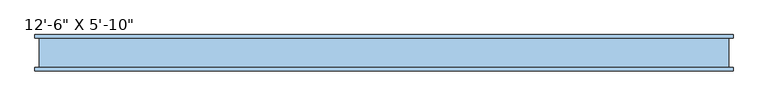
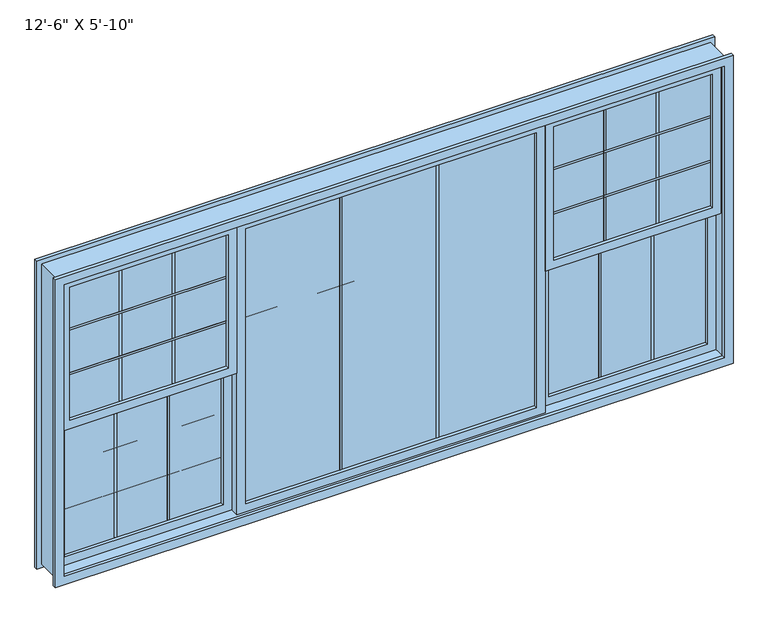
"""IFC4 building model written with IfcOpenShell, lengths in millimetres: window geometry."""

import ifcopenshell
import ifcopenshell.guid

model = None  # the IFC model being written
_history = None  # IfcOwnerHistory: only IFC2X3 demands one
_inside = {}  # id of a spatial element -> (the spatial element, [elements in it])
_under = {}  # id of a project, library or spatial element -> (it, [spatial elements below it])
_declared = {}  # id of a project -> (the project, [libraries it declares])
_typed = {}  # id of a type object -> (the type object, [elements of that type])
_made_of = {}  # id of a material, layer set ... -> (it, [elements and type objects made of it])


def new_model(schema):
    """Start an empty IFC model of exactly this schema.

    Asked for "IFC4X3", IfcOpenShell would pick the latest addendum, in which some entities
    have other attributes; the version numbers below select the first issue.
    IFC2X3 requires an IfcOwnerHistory on every rooted entity: one is made here for all.
    """
    global model, _history
    if schema == "IFC4X3":
        model = ifcopenshell.file(schema_version=(4, 3, 0, 0))
    else:
        model = ifcopenshell.file(schema=schema)
    _inside.clear()
    _under.clear()
    _declared.clear()
    _typed.clear()
    _made_of.clear()
    _history = None
    if model.schema == "IFC2X3":
        org = make("IfcOrganization", Name="unknown")
        user = make(
            "IfcPersonAndOrganization",
            ThePerson=make("IfcPerson", FamilyName="unknown"),
            TheOrganization=org,
        )
        app = make(
            "IfcApplication",
            ApplicationDeveloper=org,
            Version="unknown",
            ApplicationFullName="unknown",
            ApplicationIdentifier="unknown",
        )
        _history = make(
            "IfcOwnerHistory",
            OwningUser=user,
            OwningApplication=app,
            ChangeAction="ADDED",
            CreationDate=0,
        )
    return model


def make(cls, **values):
    """One entity of the class cls with the attributes given. An attribute that is None is left unset."""
    return model.create_entity(
        cls, **{name: value for name, value in values.items() if value is not None}
    )


def rooted(cls, **values):
    """An entity with a GlobalId (a new one), such as an element, a storey or a relation."""
    return make(cls, GlobalId=ifcopenshell.guid.new(), OwnerHistory=_history, **values)


def si_unit(unit_type, name, prefix=None):
    """IfcSIUnit, for example si_unit("LENGTHUNIT", "METRE", prefix="MILLI")."""
    return make("IfcSIUnit", UnitType=unit_type, Prefix=prefix, Name=name)


def assignment(units):
    """IfcUnitAssignment: the units of a project."""
    return None if units is None else make("IfcUnitAssignment", Units=units)


def point(xyz):
    """IfcCartesianPoint."""
    return None if xyz is None else make("IfcCartesianPoint", Coordinates=xyz)


def direction(xyz):
    """IfcDirection."""
    return None if xyz is None else make("IfcDirection", DirectionRatios=xyz)


def frame(location, z_axis=None, x_axis=None):
    """IfcAxis2Placement3D, a coordinate frame: its origin and axes. An axis left out is left unset."""
    return make(
        "IfcAxis2Placement3D",
        Location=point(location),
        Axis=direction(z_axis),
        RefDirection=direction(x_axis),
    )


def origin():
    """The frame at (0, 0, 0) with its axes left unset."""
    return frame((0.0, 0.0, 0.0))


def place(relative_to, where):
    """IfcLocalPlacement: puts the frame where relative to a parent placement (None: the world)."""
    return make(
        "IfcLocalPlacement", PlacementRelTo=relative_to, RelativePlacement=where
    )


def context(
    kind, dimensions, precision=None, world=None, true_north=None, identifier=None
):
    """IfcGeometricRepresentationContext, for example the 3D "Model" context."""
    return make(
        "IfcGeometricRepresentationContext",
        ContextIdentifier=identifier,
        ContextType=kind,
        CoordinateSpaceDimension=dimensions,
        Precision=precision,
        WorldCoordinateSystem=world,
        TrueNorth=true_north,
    )


def project(units=None, contexts=None):
    """IfcProject with its units and contexts."""
    return rooted(
        "IfcProject",
        Name="project",
        RepresentationContexts=contexts,
        UnitsInContext=assignment(units),
    )


def spatial(cls, under=None, at=None, **own):
    """A site, building, storey or space (cls), placed at a placement, below another one or the project."""
    s = rooted(cls, ObjectPlacement=at, **own)
    if under is not None:
        _under.setdefault(under.id(), (under, []))[1].append(s)
    return s


def polyline(points):
    """IfcPolyline through the points."""
    return make("IfcPolyline", Points=[point(p) for p in points])


def outline(outer, holes=None, kind="AREA"):
    """IfcArbitraryClosedProfileDef: a profile drawn as a closed curve; with holes, ...WithVoids."""
    if holes is None:
        return make("IfcArbitraryClosedProfileDef", ProfileType=kind, OuterCurve=outer)
    return make(
        "IfcArbitraryProfileDefWithVoids",
        ProfileType=kind,
        OuterCurve=outer,
        InnerCurves=holes,
    )


def extrude(swept, where, along, depth):
    """IfcExtrudedAreaSolid: the profile swept, set in the frame where, extruded along a direction by depth."""
    return make(
        "IfcExtrudedAreaSolid",
        SweptArea=swept,
        Position=where,
        ExtrudedDirection=direction(along),
        Depth=depth,
    )


def shape(context_of_items, identifier, shape_type, items):
    """IfcShapeRepresentation: the items that make up one representation, for example the "Body"."""
    return make(
        "IfcShapeRepresentation",
        ContextOfItems=context_of_items,
        RepresentationIdentifier=identifier,
        RepresentationType=shape_type,
        Items=items,
    )


def source(mapping_origin, context_of_items, identifier, shape_type, items):
    """IfcRepresentationMap: a shape defined once, which mapped items show again and again."""
    return make(
        "IfcRepresentationMap",
        MappingOrigin=mapping_origin,
        MappedRepresentation=shape(context_of_items, identifier, shape_type, items),
    )


def transform(
    local_origin,
    x_axis=None,
    y_axis=None,
    z_axis=None,
    scale=None,
    scale2=None,
    scale3=None,
    uniform=True,
):
    """IfcCartesianTransformationOperator3D, or its non-uniform kind. x_axis, y_axis, z_axis: its Axis1, 2, 3."""
    if uniform:
        return make(
            "IfcCartesianTransformationOperator3D",
            Axis1=direction(x_axis),
            Axis2=direction(y_axis),
            LocalOrigin=point(local_origin),
            Scale=scale,
            Axis3=direction(z_axis),
        )
    return make(
        "IfcCartesianTransformationOperator3DnonUniform",
        Axis1=direction(x_axis),
        Axis2=direction(y_axis),
        LocalOrigin=point(local_origin),
        Scale=scale,
        Axis3=direction(z_axis),
        Scale2=scale2,
        Scale3=scale3,
    )


def mapped(mapping_source, mapping_target):
    """IfcMappedItem: shows the shape of a source again, moved by a transform."""
    return make(
        "IfcMappedItem", MappingSource=mapping_source, MappingTarget=mapping_target
    )


def made_of(thing, what):
    """Note that an element or type object is made of a material, layer set ...; save() writes the relation."""
    if what is not None:
        _made_of.setdefault(what.id(), (what, []))[1].append(thing)
    return thing


def element(
    cls,
    number,
    at=None,
    inside=None,
    cuts=None,
    type_object=None,
    material=None,
    context=None,
    identifier="Body",
    shape_type=None,
    held_by="IfcProductDefinitionShape",
    body=None,
    shapes=None,
    **own,
):
    """One element of the class cls, such as IfcWall. Its Tag is "e" and its number.

    at: its placement. inside: the storey or other place that contains it. cuts: it is an
    opening in that element (IfcRelVoidsElement). A single representation is given by context,
    identifier, shape_type and body (its items); several are given by shapes. held_by: the class
    of the entity that holds the representations. save() writes the other relations.
    """
    e = rooted(cls, Tag="e%d" % number, ObjectPlacement=at, **own)
    if body is not None:
        shapes = [shape(context, identifier, shape_type, body)]
    if shapes is not None:
        e.Representation = make(held_by, Representations=shapes)
    if inside is not None:
        _inside.setdefault(inside.id(), (inside, []))[1].append(e)
    if cuts is not None:
        rooted(
            "IfcRelVoidsElement", RelatingBuildingElement=cuts, RelatedOpeningElement=e
        )
    if type_object is not None:
        _typed.setdefault(type_object.id(), (type_object, []))[1].append(e)
    return made_of(e, material)


def aggregate(whole, parts):
    """IfcRelAggregates: a whole, such as a stair, and the parts it consists of."""
    return rooted("IfcRelAggregates", RelatingObject=whole, RelatedObjects=parts)


def save(model, path):
    """Write the relations noted so far, then the file.

    IfcRelAggregates (storeys below a building ...), IfcRelContainedInSpatialStructure (elements
    in a storey), IfcRelDefinesByType, IfcRelAssociatesMaterial and IfcRelDeclares: one each for
    every whole, place, type object, material and project.
    """
    for whole, parts in _under.values():
        aggregate(whole, parts)
    for where, things in _inside.values():
        rooted(
            "IfcRelContainedInSpatialStructure",
            RelatedElements=things,
            RelatingStructure=where,
        )
    for kind, things in _typed.values():
        rooted("IfcRelDefinesByType", RelatedObjects=things, RelatingType=kind)
    for what, things in _made_of.values():
        rooted("IfcRelAssociatesMaterial", RelatedObjects=things, RelatingMaterial=what)
    for by, libraries in _declared.values():
        rooted("IfcRelDeclares", RelatingContext=by, RelatedDefinitions=libraries)
    model.write(path)


def window_16cb1443(model_context):
    return source(origin(), model_context, "Body", "SweptSolid", [
        extrude(outline(polyline([(2590.8, 889.0), (1676.4, 889.0), (1676.4, 1905.0), (2590.8, 1905.0), (2590.8, 889.0)]), holes=[polyline([(2540.0, 939.8), (2540.0, 1854.2), (1727.2, 1854.2), (1727.2, 939.8), (2540.0, 939.8)])]), frame((0.0, -69.85, 0.0), z_axis=(0.0, 1.0, 0.0), x_axis=(0.0, 0.0, 1.0)), (0.0, 0.0, 1.0), 50.8),
        extrude(outline(polyline([(1854.2, -38.1), (1854.2, -50.8), (939.8, -50.8), (939.8, -38.1), (1854.2, -38.1)])), frame((0.0, 0.0, 2262.7166667), z_axis=(0.0, 0.0, 1.0), x_axis=(1.0, 0.0, 0.0)), (0.0, 0.0, 1.0), 12.7),
        extrude(outline(polyline([(1854.2, -38.1), (1854.2, -50.8), (939.8, -50.8), (939.8, -38.1), (1854.2, -38.1)])), frame((0.0, 0.0, 1991.7833333), z_axis=(0.0, 0.0, 1.0), x_axis=(1.0, 0.0, 0.0)), (0.0, 0.0, 1.0), 12.7),
        extrude(outline(polyline([(1555.75, -38.1), (1555.75, -50.8), (1543.05, -50.8), (1543.05, -38.1), (1555.75, -38.1)])), frame((0.0, 0.0, 1727.2), z_axis=(0.0, 0.0, 1.0), x_axis=(1.0, 0.0, 0.0)), (0.0, 0.0, 1.0), 812.8),
        extrude(outline(polyline([(1250.95, -38.1), (1250.95, -50.8), (1238.25, -50.8), (1238.25, -38.1), (1250.95, -38.1)])), frame((0.0, 0.0, 1727.2), z_axis=(0.0, 0.0, 1.0), x_axis=(1.0, 0.0, 0.0)), (0.0, 0.0, 1.0), 812.8),
        extrude(outline(polyline([(1854.2, -38.1), (1854.2, -50.8), (939.8, -50.8), (939.8, -38.1), (1854.2, -38.1)])), frame((0.0, 0.0, 1727.2), z_axis=(0.0, 0.0, 1.0), x_axis=(1.0, 0.0, 0.0)), (0.0, 0.0, 1.0), 812.8),
        extrude(outline(polyline([(1250.95, 12.7), (1250.95, 0.0), (1238.25, 0.0), (1238.25, 12.7), (1250.95, 12.7)])), frame((0.0, 0.0, 863.6), z_axis=(0.0, 0.0, 1.0), x_axis=(1.0, 0.0, 0.0)), (0.0, 0.0, 1.0), 812.8),
        extrude(outline(polyline([(1555.75, 12.7), (1555.75, 0.0), (1543.05, 0.0), (1543.05, 12.7), (1555.75, 12.7)])), frame((0.0, 0.0, 863.6), z_axis=(0.0, 0.0, 1.0), x_axis=(1.0, 0.0, 0.0)), (0.0, 0.0, 1.0), 812.8),
        extrude(outline(polyline([(1854.2, 12.7), (1854.2, 0.0), (939.8, 0.0), (939.8, 12.7), (1854.2, 12.7)])), frame((0.0, 0.0, 863.6), z_axis=(0.0, 0.0, 1.0), x_axis=(1.0, 0.0, 0.0)), (0.0, 0.0, 1.0), 812.8),
        extrude(outline(polyline([(1727.2, 1905.0), (1727.2, 889.0), (812.8, 889.0), (812.8, 1905.0), (1727.2, 1905.0)]), holes=[polyline([(1676.4, 939.8), (1676.4, 1854.2), (863.6, 1854.2), (863.6, 939.8), (1676.4, 939.8)])]), frame((0.0, -19.05, 0.0), z_axis=(0.0, 1.0, 0.0), x_axis=(0.0, 0.0, 1.0)), (0.0, 0.0, 1.0), 50.8),
        extrude(outline(polyline([(1854.2, 12.7), (1854.2, 0.0), (939.8, 0.0), (939.8, 12.7), (1854.2, 12.7)])), frame((0.0, 0.0, 1128.1833333), z_axis=(0.0, 0.0, 1.0), x_axis=(1.0, 0.0, 0.0)), (0.0, 0.0, 1.0), 12.7),
        extrude(outline(polyline([(1854.2, 12.7), (1854.2, 0.0), (939.8, 0.0), (939.8, 12.7), (1854.2, 12.7)])), frame((0.0, 0.0, 1399.1166667), z_axis=(0.0, 0.0, 1.0), x_axis=(1.0, 0.0, 0.0)), (0.0, 0.0, 1.0), 12.7),
        extrude(outline(polyline([(2590.8, -1905.0), (1676.4, -1905.0), (1676.4, -889.0), (2590.8, -889.0), (2590.8, -1905.0)]), holes=[polyline([(2540.0, -1854.2), (2540.0, -939.8), (1727.2, -939.8), (1727.2, -1854.2), (2540.0, -1854.2)])]), frame((0.0, -69.85, 0.0), z_axis=(0.0, 1.0, 0.0), x_axis=(0.0, 0.0, 1.0)), (0.0, 0.0, 1.0), 50.8),
        extrude(outline(polyline([(-939.8, -38.1), (-939.8, -50.8), (-1854.2, -50.8), (-1854.2, -38.1), (-939.8, -38.1)])), frame((0.0, 0.0, 2262.7166667), z_axis=(0.0, 0.0, 1.0), x_axis=(1.0, 0.0, 0.0)), (0.0, 0.0, 1.0), 12.7),
        extrude(outline(polyline([(-939.8, -38.1), (-939.8, -50.8), (-1854.2, -50.8), (-1854.2, -38.1), (-939.8, -38.1)])), frame((0.0, 0.0, 1991.7833333), z_axis=(0.0, 0.0, 1.0), x_axis=(1.0, 0.0, 0.0)), (0.0, 0.0, 1.0), 12.7),
        extrude(outline(polyline([(-1238.25, -38.1), (-1238.25, -50.8), (-1250.95, -50.8), (-1250.95, -38.1), (-1238.25, -38.1)])), frame((0.0, 0.0, 1727.2), z_axis=(0.0, 0.0, 1.0), x_axis=(1.0, 0.0, 0.0)), (0.0, 0.0, 1.0), 812.8),
        extrude(outline(polyline([(-1543.05, -38.1), (-1543.05, -50.8), (-1555.75, -50.8), (-1555.75, -38.1), (-1543.05, -38.1)])), frame((0.0, 0.0, 1727.2), z_axis=(0.0, 0.0, 1.0), x_axis=(1.0, 0.0, 0.0)), (0.0, 0.0, 1.0), 812.8),
        extrude(outline(polyline([(-939.8, -38.1), (-939.8, -50.8), (-1854.2, -50.8), (-1854.2, -38.1), (-939.8, -38.1)])), frame((0.0, 0.0, 1727.2), z_axis=(0.0, 0.0, 1.0), x_axis=(1.0, 0.0, 0.0)), (0.0, 0.0, 1.0), 812.8),
        extrude(outline(polyline([(-1543.05, 12.7), (-1543.05, 0.0), (-1555.75, 0.0), (-1555.75, 12.7), (-1543.05, 12.7)])), frame((0.0, 0.0, 863.6), z_axis=(0.0, 0.0, 1.0), x_axis=(1.0, 0.0, 0.0)), (0.0, 0.0, 1.0), 812.8),
        extrude(outline(polyline([(-1238.25, 12.7), (-1238.25, 0.0), (-1250.95, 0.0), (-1250.95, 12.7), (-1238.25, 12.7)])), frame((0.0, 0.0, 863.6), z_axis=(0.0, 0.0, 1.0), x_axis=(1.0, 0.0, 0.0)), (0.0, 0.0, 1.0), 812.8),
        extrude(outline(polyline([(-939.8, 12.7), (-939.8, 0.0), (-1854.2, 0.0), (-1854.2, 12.7), (-939.8, 12.7)])), frame((0.0, 0.0, 863.6), z_axis=(0.0, 0.0, 1.0), x_axis=(1.0, 0.0, 0.0)), (0.0, 0.0, 1.0), 812.8),
        extrude(outline(polyline([(1727.2, -889.0), (1727.2, -1905.0), (812.8, -1905.0), (812.8, -889.0), (1727.2, -889.0)]), holes=[polyline([(1676.4, -1854.2), (1676.4, -939.8), (863.6, -939.8), (863.6, -1854.2), (1676.4, -1854.2)])]), frame((0.0, -19.05, 0.0), z_axis=(0.0, 1.0, 0.0), x_axis=(0.0, 0.0, 1.0)), (0.0, 0.0, 1.0), 50.8),
        extrude(outline(polyline([(-939.8, 12.7), (-939.8, 0.0), (-1854.2, 0.0), (-1854.2, 12.7), (-939.8, 12.7)])), frame((0.0, 0.0, 1128.1833333), z_axis=(0.0, 0.0, 1.0), x_axis=(1.0, 0.0, 0.0)), (0.0, 0.0, 1.0), 12.7),
        extrude(outline(polyline([(-939.8, 12.7), (-939.8, 0.0), (-1854.2, 0.0), (-1854.2, 12.7), (-939.8, 12.7)])), frame((0.0, 0.0, 1399.1166667), z_axis=(0.0, 0.0, 1.0), x_axis=(1.0, 0.0, 0.0)), (0.0, 0.0, 1.0), 12.7),
        extrude(outline(polyline([(285.75, -38.1), (285.75, -50.8), (273.05, -50.8), (273.05, -38.1), (285.75, -38.1)])), frame((0.0, 0.0, 863.6), z_axis=(0.0, 0.0, 1.0), x_axis=(1.0, 0.0, 0.0)), (0.0, 0.0, 1.0), 1676.4),
        extrude(outline(polyline([(-273.05, -38.1), (-273.05, -50.8), (-285.75, -50.8), (-285.75, -38.1), (-273.05, -38.1)])), frame((0.0, 0.0, 863.6), z_axis=(0.0, 0.0, 1.0), x_axis=(1.0, 0.0, 0.0)), (0.0, 0.0, 1.0), 1676.4),
        extrude(outline(polyline([(2590.8, 889.0), (2590.8, -889.0), (812.8, -889.0), (812.8, 889.0), (2590.8, 889.0)]), holes=[polyline([(2540.0, -838.2), (2540.0, 838.2), (863.6, 838.2), (863.6, -838.2), (2540.0, -838.2)])]), frame((0.0, -69.85, 0.0), z_axis=(0.0, 1.0, 0.0), x_axis=(0.0, 0.0, 1.0)), (0.0, 0.0, 1.0), 50.8),
        extrude(outline(polyline([(838.2, -38.1), (838.2, -50.8), (-838.2, -50.8), (-838.2, -38.1), (838.2, -38.1)])), frame((0.0, 0.0, 863.6), z_axis=(0.0, 0.0, 1.0), x_axis=(1.0, 0.0, 0.0)), (0.0, 0.0, 1.0), 1676.4),
        extrude(outline(polyline([(838.2, -38.1), (838.2, -50.8), (-838.2, -50.8), (-838.2, -38.1), (838.2, -38.1)])), frame((0.0, 0.0, 1974.85), z_axis=(0.0, 0.0, 1.0), x_axis=(1.0, 0.0, 0.0)), (0.0, 0.0, 1.0), 12.7),
        extrude(outline(polyline([(838.2, -38.1), (838.2, -50.8), (-838.2, -50.8), (-838.2, -38.1), (838.2, -38.1)])), frame((0.0, 0.0, 1416.05), z_axis=(0.0, 0.0, 1.0), x_axis=(1.0, 0.0, 0.0)), (0.0, 0.0, 1.0), 12.7),
        extrude(outline(polyline([(2641.6, -1955.8), (762.0, -1955.8), (762.0, 1955.8), (2641.6, 1955.8), (2641.6, -1955.8)]), holes=[polyline([(2590.8, -1905.0), (2590.8, 1905.0), (812.8, 1905.0), (812.8, -1905.0), (2590.8, -1905.0)])]), frame((0.0, 82.55, 0.0), z_axis=(0.0, 1.0, 0.0), x_axis=(0.0, 0.0, 1.0)), (0.0, 0.0, 1.0), 19.05),
        extrude(outline(polyline([(2641.6, -1955.8), (762.0, -1955.8), (762.0, 1955.8), (2641.6, 1955.8), (2641.6, -1955.8)]), holes=[polyline([(2590.8, -1905.0), (2590.8, 1905.0), (812.8, 1905.0), (812.8, -1905.0), (2590.8, -1905.0)])]), frame((0.0, -101.6, 0.0), z_axis=(0.0, 1.0, 0.0), x_axis=(0.0, 0.0, 1.0)), (0.0, 0.0, 1.0), 19.05),
        extrude(outline(polyline([(2616.2, 1930.4), (2616.2, -1930.4), (787.4, -1930.4), (787.4, 1930.4), (2616.2, 1930.4)]), holes=[polyline([(2590.8, -1905.0), (2590.8, 1905.0), (812.8, 1905.0), (812.8, -1905.0), (2590.8, -1905.0)])]), frame((0.0, -82.55, 0.0), z_axis=(0.0, 1.0, 0.0), x_axis=(0.0, 0.0, 1.0)), (0.0, 0.0, 1.0), 165.1),
    ])


if __name__ == "__main__":
    model = new_model("IFC4")
    model_context = context("Model", 3, world=origin())
    ifc_project = project(units=[si_unit("LENGTHUNIT", "METRE", prefix="MILLI")], contexts=[model_context])
    site = spatial("IfcSite", under=ifc_project)
    building = spatial("IfcBuilding", under=site)
    placement = place(None, origin())
    window_shape = window_16cb1443(model_context)
    element("IfcWindow", 1, ObjectType="C_Atypical Window 6 : 12'-6\" X 5'-10\"", at=placement, inside=building, context=model_context, shape_type="MappedRepresentation", body=[
        mapped(window_shape, transform((0.0, 0.0, 0.0), x_axis=(1.0, 0.0, 0.0), y_axis=(0.0, 1.0, 0.0), z_axis=(0.0, 0.0, 1.0))),
    ])
    save(model, "model.ifc")
